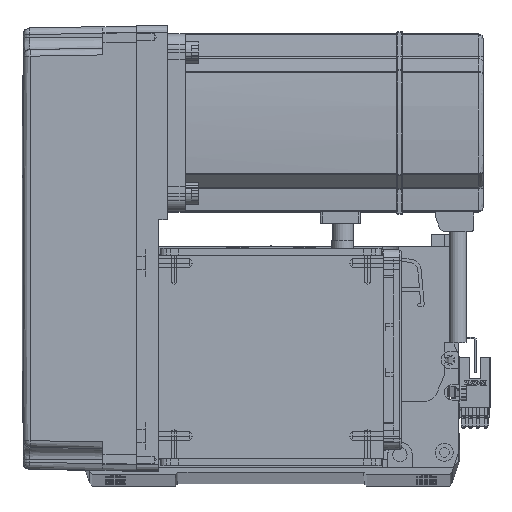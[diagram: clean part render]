
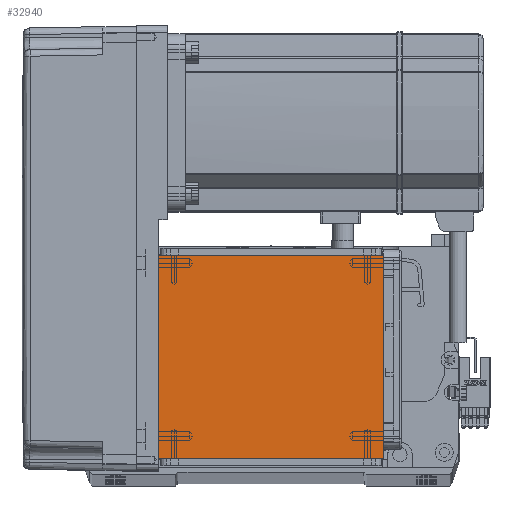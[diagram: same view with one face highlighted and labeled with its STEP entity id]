
A CAD part, top view. The second image highlights one B-rep face of the part: STEP entity #32940.
In plain terms, the highlighted planar face has unit normal (0, 0, 1).
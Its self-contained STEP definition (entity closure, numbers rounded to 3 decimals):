
#2563 = DIRECTION ( 'NONE',  ( 1., 0., 0. ) ) ;
#4215 = DIRECTION ( 'NONE',  ( 0., 0., 1. ) ) ;
#5148 = FACE_OUTER_BOUND ( 'NONE', #59355, .T. ) ;
#6523 = LINE ( 'NONE', #17493, #39893 ) ;
#8217 = VERTEX_POINT ( 'NONE', #28096 ) ;
#9417 = VERTEX_POINT ( 'NONE', #9575 ) ;
#9575 = CARTESIAN_POINT ( 'NONE',  ( -50.5, 20., 115. ) ) ;
#16614 = DIRECTION ( 'NONE',  ( 0., -1., 0. ) ) ;
#16898 = ORIENTED_EDGE ( 'NONE', *, *, #45571, .F. ) ;
#17493 = CARTESIAN_POINT ( 'NONE',  ( 50.5, 122., 115. ) ) ;
#18425 = LINE ( 'NONE', #24771, #40651 ) ;
#24771 = CARTESIAN_POINT ( 'NONE',  ( -70.004, 20., 115. ) ) ;
#25533 = ORIENTED_EDGE ( 'NONE', *, *, #62697, .T. ) ;
#28096 = CARTESIAN_POINT ( 'NONE',  ( 50.5, 111.5, 115. ) ) ;
#31546 = CARTESIAN_POINT ( 'NONE',  ( -50.5, 122., 115. ) ) ;
#31716 = VECTOR ( 'NONE', #16614, 1000. ) ;
#32523 = ORIENTED_EDGE ( 'NONE', *, *, #43806, .F. ) ;
#32940 = ADVANCED_FACE ( 'NONE', ( #5148 ), #49741, .T. ) ;
#33167 = VERTEX_POINT ( 'NONE', #61285 ) ;
#33287 = LINE ( 'NONE', #31546, #31716 ) ;
#37141 = AXIS2_PLACEMENT_3D ( 'NONE', #46380, #4215, #40846 ) ;
#39893 = VECTOR ( 'NONE', #63518, 1000. ) ;
#40651 = VECTOR ( 'NONE', #60377, 1000. ) ;
#40846 = DIRECTION ( 'NONE',  ( 1., 0., 0. ) ) ;
#42877 = CARTESIAN_POINT ( 'NONE',  ( -50.5, 111.5, 115. ) ) ;
#43490 = EDGE_CURVE ( 'NONE', #33167, #8217, #6523, .T. ) ;
#43806 = EDGE_CURVE ( 'NONE', #33167, #9417, #18425, .T. ) ;
#45571 = EDGE_CURVE ( 'NONE', #60298, #8217, #50749, .T. ) ;
#46380 = CARTESIAN_POINT ( 'NONE',  ( 0., 0., 115. ) ) ;
#47548 = VECTOR ( 'NONE', #2563, 1000. ) ;
#49741 = PLANE ( 'NONE',  #37141 ) ;
#50749 = LINE ( 'NONE', #53639, #47548 ) ;
#51472 = ORIENTED_EDGE ( 'NONE', *, *, #43490, .T. ) ;
#53639 = CARTESIAN_POINT ( 'NONE',  ( -70.004, 111.5, 115. ) ) ;
#59355 = EDGE_LOOP ( 'NONE', ( #16898, #25533, #32523, #51472 ) ) ;
#60298 = VERTEX_POINT ( 'NONE', #42877 ) ;
#60377 = DIRECTION ( 'NONE',  ( -1., 0., 0. ) ) ;
#61285 = CARTESIAN_POINT ( 'NONE',  ( 50.5, 20., 115. ) ) ;
#62697 = EDGE_CURVE ( 'NONE', #60298, #9417, #33287, .T. ) ;
#63518 = DIRECTION ( 'NONE',  ( 0., 1., 0. ) ) ;
